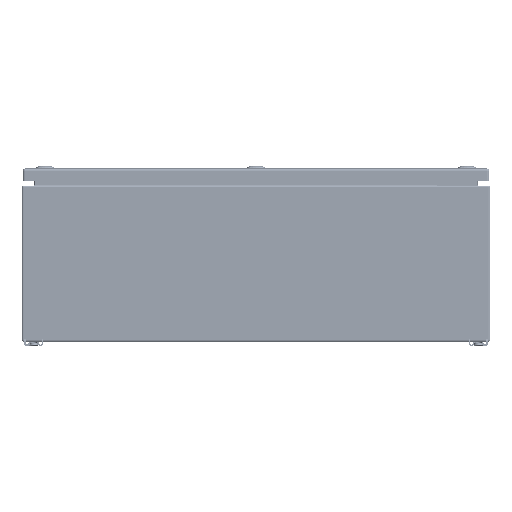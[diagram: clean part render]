
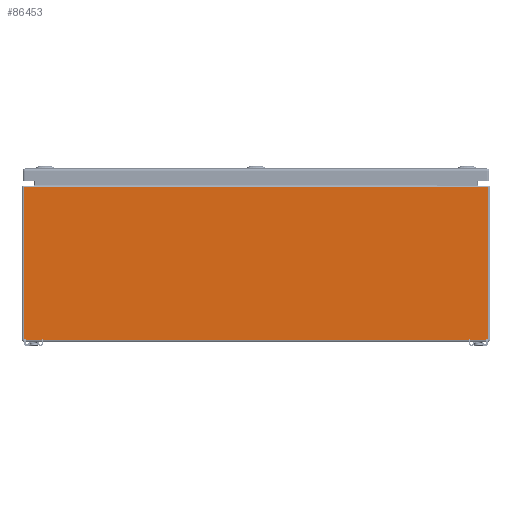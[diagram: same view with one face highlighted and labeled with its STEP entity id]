
A CAD part, front view. The second image highlights one B-rep face of the part: STEP entity #86453.
In plain terms, the highlighted planar face has unit normal (0, -1, 0).
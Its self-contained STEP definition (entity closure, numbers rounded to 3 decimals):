
#11602=FACE_OUTER_BOUND('',#16722,.T.);
#16722=EDGE_LOOP('',(#57673,#57674,#57675,#57676));
#22370=LINE('',#122064,#28772);
#22373=LINE('',#122086,#28775);
#22374=LINE('',#122088,#28776);
#22375=LINE('',#122089,#28777);
#28772=VECTOR('',#100336,0.394);
#28775=VECTOR('',#100367,0.394);
#28776=VECTOR('',#100368,0.394);
#28777=VECTOR('',#100369,0.394);
#35161=VERTEX_POINT('',#122053);
#35164=VERTEX_POINT('',#122063);
#35169=VERTEX_POINT('',#122085);
#35170=VERTEX_POINT('',#122087);
#43963=EDGE_CURVE('',#35161,#35164,#22370,.T.);
#43974=EDGE_CURVE('',#35169,#35161,#22373,.T.);
#43975=EDGE_CURVE('',#35169,#35170,#22374,.T.);
#43976=EDGE_CURVE('',#35164,#35170,#22375,.T.);
#57673=ORIENTED_EDGE('',*,*,#43963,.F.);
#57674=ORIENTED_EDGE('',*,*,#43974,.F.);
#57675=ORIENTED_EDGE('',*,*,#43975,.T.);
#57676=ORIENTED_EDGE('',*,*,#43976,.F.);
#84319=PLANE('',#92579);
#86453=ADVANCED_FACE('',(#11602),#84319,.T.);
#92579=AXIS2_PLACEMENT_3D('',#122084,#100365,#100366);
#100336=DIRECTION('',(1.,0.,0.));
#100365=DIRECTION('center_axis',(0.,-1.,0.));
#100366=DIRECTION('ref_axis',(-1.,0.,0.));
#100367=DIRECTION('',(0.,0.,1.));
#100368=DIRECTION('',(1.,0.,0.));
#100369=DIRECTION('',(0.,0.,-1.));
#122053=CARTESIAN_POINT('',(-14.901,-21.,9.901));
#122063=CARTESIAN_POINT('',(14.901,-21.,9.901));
#122064=CARTESIAN_POINT('',(0.025,-21.,9.901));
#122084=CARTESIAN_POINT('Origin',(15.,-21.,10.));
#122085=CARTESIAN_POINT('',(-14.901,-21.,0.099));
#122086=CARTESIAN_POINT('',(-14.901,-21.,5.));
#122087=CARTESIAN_POINT('',(14.901,-21.,0.099));
#122088=CARTESIAN_POINT('',(-7.451,-21.,0.099));
#122089=CARTESIAN_POINT('',(14.901,-21.,5.));
